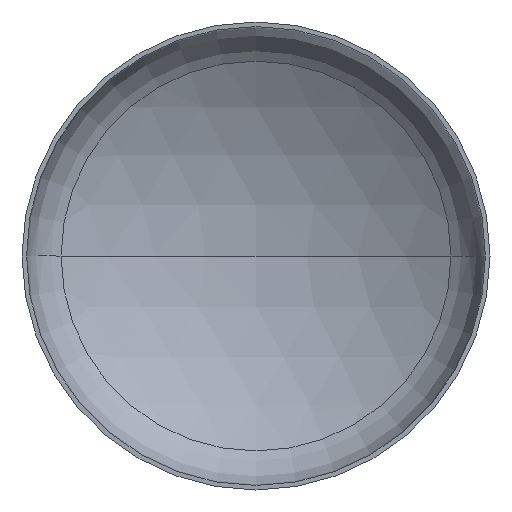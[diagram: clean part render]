
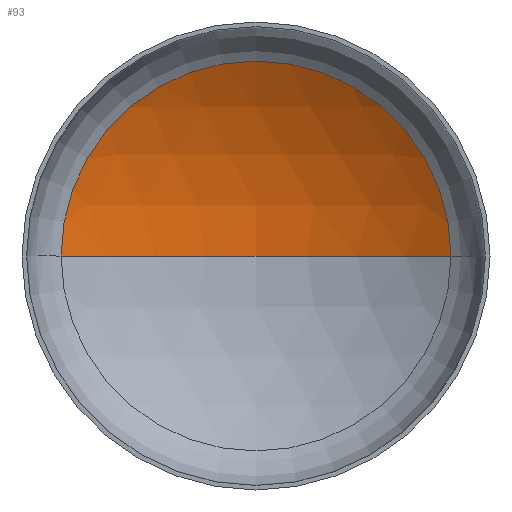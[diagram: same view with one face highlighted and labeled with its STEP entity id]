
A CAD part, front view. The second image highlights one B-rep face of the part: STEP entity #93.
In plain terms, the highlighted spherical face has radius 3200 mm.
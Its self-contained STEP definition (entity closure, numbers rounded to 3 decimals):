
#26 = DIRECTION ( 'NONE',  ( 1., 0., 0. ) ) ;
#31 = DIRECTION ( 'NONE',  ( 0., -1., 0. ) ) ;
#33 = EDGE_LOOP ( 'NONE', ( #158, #96, #79 ) ) ;
#36 = DIRECTION ( 'NONE',  ( 0., 0., -1. ) ) ;
#41 = CARTESIAN_POINT ( 'NONE',  ( 0., -2086.923, 0. ) ) ;
#43 = AXIS2_PLACEMENT_3D ( 'NONE', #150, #148, #149 ) ;
#51 = AXIS2_PLACEMENT_3D ( 'NONE', #41, #36, #180 ) ;
#54 = AXIS2_PLACEMENT_3D ( 'NONE', #177, #31, #26 ) ;
#79 = ORIENTED_EDGE ( 'NONE', *, *, #221, .T. ) ;
#93 = ADVANCED_FACE ( 'NONE', ( #296 ), #166, .F. ) ;
#96 = ORIENTED_EDGE ( 'NONE', *, *, #229, .T. ) ;
#105 = AXIS2_PLACEMENT_3D ( 'NONE', #242, #219, #218 ) ;
#117 = VERTEX_POINT ( 'NONE', #228 ) ;
#126 = VERTEX_POINT ( 'NONE', #325 ) ;
#135 = VERTEX_POINT ( 'NONE', #201 ) ;
#148 = DIRECTION ( 'NONE',  ( 0., 0., 1. ) ) ;
#149 = DIRECTION ( 'NONE',  ( 1., 0., 0. ) ) ;
#150 = CARTESIAN_POINT ( 'NONE',  ( 0., -2086.923, 0. ) ) ;
#158 = ORIENTED_EDGE ( 'NONE', *, *, #252, .F. ) ;
#166 = SPHERICAL_SURFACE ( 'NONE', #105, 3200. ) ;
#177 = CARTESIAN_POINT ( 'NONE',  ( 0., 645.051, 0. ) ) ;
#180 = DIRECTION ( 'NONE',  ( -1., 0., 0. ) ) ;
#199 = CIRCLE ( 'NONE', #51, 3200. ) ;
#201 = CARTESIAN_POINT ( 'NONE',  ( 0., 1113.077, 0. ) ) ;
#218 = DIRECTION ( 'NONE',  ( -1., 0., 0. ) ) ;
#219 = DIRECTION ( 'NONE',  ( 0., 0., -1. ) ) ;
#221 = EDGE_CURVE ( 'NONE', #117, #126, #377, .T. ) ;
#228 = CARTESIAN_POINT ( 'NONE',  ( 1666.228, 645.051, 0. ) ) ;
#229 = EDGE_CURVE ( 'NONE', #135, #117, #199, .T. ) ;
#242 = CARTESIAN_POINT ( 'NONE',  ( 0., -2086.923, 0. ) ) ;
#252 = EDGE_CURVE ( 'NONE', #135, #126, #263, .T. ) ;
#263 = CIRCLE ( 'NONE', #43, 3200. ) ;
#296 = FACE_OUTER_BOUND ( 'NONE', #33, .T. ) ;
#325 = CARTESIAN_POINT ( 'NONE',  ( -1666.228, 645.051, 0. ) ) ;
#377 = CIRCLE ( 'NONE', #54, 1666.228 ) ;
